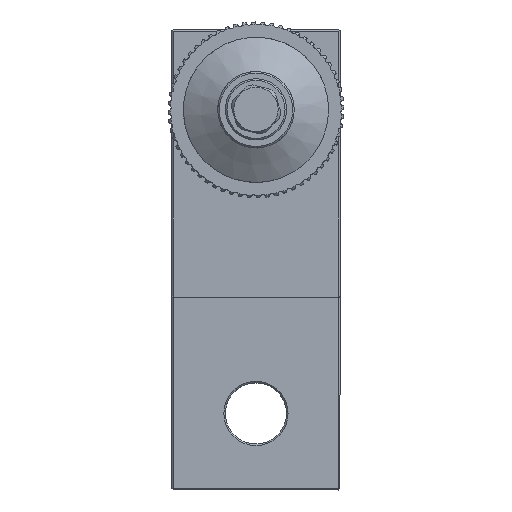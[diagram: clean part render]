
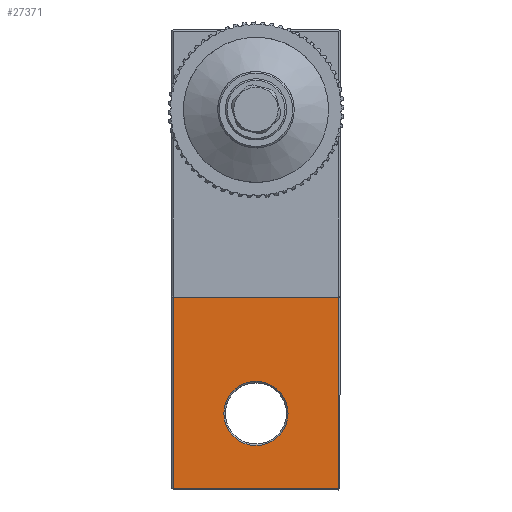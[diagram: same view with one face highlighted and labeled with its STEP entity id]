
A CAD part, top view. The second image highlights one B-rep face of the part: STEP entity #27371.
In plain terms, the highlighted planar face has unit normal (0, 0, 1).
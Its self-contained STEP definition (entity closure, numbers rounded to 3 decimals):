
#381 = DIRECTION ( 'NONE',  ( 1., 0., 0. ) ) ;
#511 = DIRECTION ( 'NONE',  ( 0., 0., -1. ) ) ;
#2952 = DIRECTION ( 'NONE',  ( -0.001, -1., 0. ) ) ;
#3732 = EDGE_CURVE ( 'NONE', #10282, #7189, #19170, .T. ) ;
#3796 = EDGE_CURVE ( 'NONE', #15205, #15205, #10028, .T. ) ;
#5065 = AXIS2_PLACEMENT_3D ( 'NONE', #12001, #5237, #9474 ) ;
#5237 = DIRECTION ( 'NONE',  ( 0., 0., 1. ) ) ;
#7189 = VERTEX_POINT ( 'NONE', #18733 ) ;
#8575 = CARTESIAN_POINT ( 'NONE',  ( 4.19, -32.6, 22. ) ) ;
#8903 = EDGE_CURVE ( 'NONE', #21352, #17947, #17749, .T. ) ;
#9196 = FACE_BOUND ( 'NONE', #11133, .T. ) ;
#9349 = ORIENTED_EDGE ( 'NONE', *, *, #3732, .T. ) ;
#9474 = DIRECTION ( 'NONE',  ( 1., 0., 0. ) ) ;
#10028 = CIRCLE ( 'NONE', #25357, 4.2 ) ;
#10282 = VERTEX_POINT ( 'NONE', #11800 ) ;
#11133 = EDGE_LOOP ( 'NONE', ( #25321 ) ) ;
#11800 = CARTESIAN_POINT ( 'NONE',  ( 10.785, -42.405, 22. ) ) ;
#11866 = PLANE ( 'NONE',  #5065 ) ;
#12001 = CARTESIAN_POINT ( 'NONE',  ( -11.015, -42.594, 22. ) ) ;
#12046 = CARTESIAN_POINT ( 'NONE',  ( 10.815, 17.195, 22. ) ) ;
#12583 = VECTOR ( 'NONE', #14303, 1000. ) ;
#13437 = ORIENTED_EDGE ( 'NONE', *, *, #25309, .T. ) ;
#14165 = LINE ( 'NONE', #12046, #12583 ) ;
#14303 = DIRECTION ( 'NONE',  ( -1., 0.001, 0. ) ) ;
#15205 = VERTEX_POINT ( 'NONE', #8575 ) ;
#16089 = DIRECTION ( 'NONE',  ( 1., -0.001, 0. ) ) ;
#17749 = LINE ( 'NONE', #24247, #26412 ) ;
#17947 = VERTEX_POINT ( 'NONE', #24507 ) ;
#18733 = CARTESIAN_POINT ( 'NONE',  ( 10.815, 17.195, 22. ) ) ;
#19170 = LINE ( 'NONE', #23385, #24456 ) ;
#19859 = CARTESIAN_POINT ( 'NONE',  ( -0.01, -32.6, 22. ) ) ;
#19893 = CARTESIAN_POINT ( 'NONE',  ( -10.815, -42.395, 22. ) ) ;
#19946 = ORIENTED_EDGE ( 'NONE', *, *, #20419, .T. ) ;
#20419 = EDGE_CURVE ( 'NONE', #7189, #21352, #14165, .T. ) ;
#21352 = VERTEX_POINT ( 'NONE', #25597 ) ;
#22441 = FACE_OUTER_BOUND ( 'NONE', #24016, .T. ) ;
#23385 = CARTESIAN_POINT ( 'NONE',  ( 10.785, -42.405, 22. ) ) ;
#24016 = EDGE_LOOP ( 'NONE', ( #9349, #19946, #26070, #13437 ) ) ;
#24247 = CARTESIAN_POINT ( 'NONE',  ( -10.785, 17.205, 22. ) ) ;
#24456 = VECTOR ( 'NONE', #25513, 1000. ) ;
#24507 = CARTESIAN_POINT ( 'NONE',  ( -10.815, -42.395, 22. ) ) ;
#24554 = LINE ( 'NONE', #19893, #27836 ) ;
#25309 = EDGE_CURVE ( 'NONE', #17947, #10282, #24554, .T. ) ;
#25321 = ORIENTED_EDGE ( 'NONE', *, *, #3796, .T. ) ;
#25357 = AXIS2_PLACEMENT_3D ( 'NONE', #19859, #511, #381 ) ;
#25513 = DIRECTION ( 'NONE',  ( 0.001, 1., 0. ) ) ;
#25597 = CARTESIAN_POINT ( 'NONE',  ( -10.785, 17.205, 22. ) ) ;
#26070 = ORIENTED_EDGE ( 'NONE', *, *, #8903, .T. ) ;
#26412 = VECTOR ( 'NONE', #2952, 1000. ) ;
#27371 = ADVANCED_FACE ( 'NONE', ( #22441, #9196 ), #11866, .T. ) ;
#27836 = VECTOR ( 'NONE', #16089, 1000. ) ;
